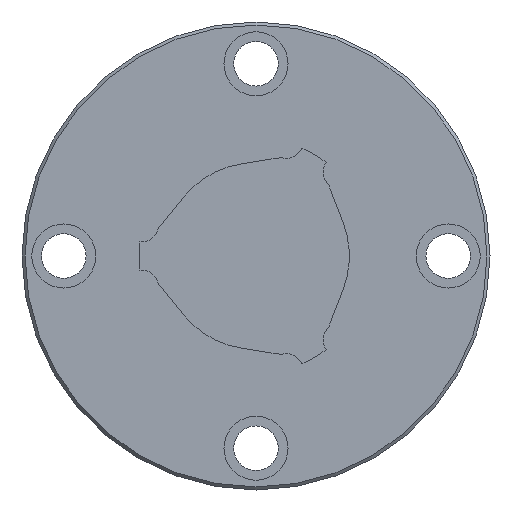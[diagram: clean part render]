
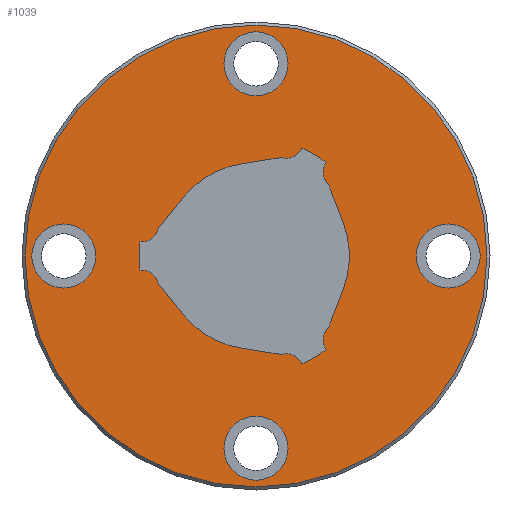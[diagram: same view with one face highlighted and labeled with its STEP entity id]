
A CAD part, left-side view. The second image highlights one B-rep face of the part: STEP entity #1039.
In plain terms, the highlighted planar face has unit normal (-1, 0, 0).
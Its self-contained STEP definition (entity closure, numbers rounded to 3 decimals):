
#45=PLANE('',#1156);
#91=LINE('',#1728,#151);
#92=LINE('',#1737,#152);
#93=LINE('',#1741,#153);
#94=LINE('',#1749,#154);
#95=LINE('',#1753,#155);
#96=LINE('',#1761,#156);
#151=VECTOR('',#1389,1000.);
#152=VECTOR('',#1396,1000.);
#153=VECTOR('',#1399,1000.);
#154=VECTOR('',#1406,1000.);
#155=VECTOR('',#1409,1000.);
#156=VECTOR('',#1416,1000.);
#289=ORIENTED_EDGE('',*,*,#513,.F.);
#290=ORIENTED_EDGE('',*,*,#514,.F.);
#291=ORIENTED_EDGE('',*,*,#515,.T.);
#292=ORIENTED_EDGE('',*,*,#516,.T.);
#293=ORIENTED_EDGE('',*,*,#517,.T.);
#294=ORIENTED_EDGE('',*,*,#518,.T.);
#295=ORIENTED_EDGE('',*,*,#519,.F.);
#296=ORIENTED_EDGE('',*,*,#520,.T.);
#297=ORIENTED_EDGE('',*,*,#521,.F.);
#298=ORIENTED_EDGE('',*,*,#522,.T.);
#299=ORIENTED_EDGE('',*,*,#523,.T.);
#300=ORIENTED_EDGE('',*,*,#524,.T.);
#301=ORIENTED_EDGE('',*,*,#525,.F.);
#302=ORIENTED_EDGE('',*,*,#526,.T.);
#303=ORIENTED_EDGE('',*,*,#527,.F.);
#304=ORIENTED_EDGE('',*,*,#528,.T.);
#305=ORIENTED_EDGE('',*,*,#529,.T.);
#306=ORIENTED_EDGE('',*,*,#530,.T.);
#307=ORIENTED_EDGE('',*,*,#531,.F.);
#308=ORIENTED_EDGE('',*,*,#532,.T.);
#309=ORIENTED_EDGE('',*,*,#533,.F.);
#310=ORIENTED_EDGE('',*,*,#534,.T.);
#311=ORIENTED_EDGE('',*,*,#535,.T.);
#513=EDGE_CURVE('',#634,#634,#725,.T.);
#514=EDGE_CURVE('',#635,#635,#726,.F.);
#515=EDGE_CURVE('',#636,#636,#727,.T.);
#516=EDGE_CURVE('',#637,#637,#728,.T.);
#517=EDGE_CURVE('',#638,#638,#729,.T.);
#518=EDGE_CURVE('',#639,#640,#91,.T.);
#519=EDGE_CURVE('',#641,#640,#730,.T.);
#520=EDGE_CURVE('',#641,#642,#731,.T.);
#521=EDGE_CURVE('',#643,#642,#732,.T.);
#522=EDGE_CURVE('',#643,#644,#92,.T.);
#523=EDGE_CURVE('',#644,#645,#733,.T.);
#524=EDGE_CURVE('',#645,#646,#93,.T.);
#525=EDGE_CURVE('',#647,#646,#734,.T.);
#526=EDGE_CURVE('',#647,#648,#735,.T.);
#527=EDGE_CURVE('',#649,#648,#736,.T.);
#528=EDGE_CURVE('',#649,#650,#94,.T.);
#529=EDGE_CURVE('',#650,#651,#737,.T.);
#530=EDGE_CURVE('',#651,#652,#95,.T.);
#531=EDGE_CURVE('',#653,#652,#738,.T.);
#532=EDGE_CURVE('',#653,#654,#739,.T.);
#533=EDGE_CURVE('',#655,#654,#740,.T.);
#534=EDGE_CURVE('',#655,#656,#96,.T.);
#535=EDGE_CURVE('',#656,#639,#741,.T.);
#634=VERTEX_POINT('',#1719);
#635=VERTEX_POINT('',#1721);
#636=VERTEX_POINT('',#1723);
#637=VERTEX_POINT('',#1725);
#638=VERTEX_POINT('',#1727);
#639=VERTEX_POINT('',#1729);
#640=VERTEX_POINT('',#1730);
#641=VERTEX_POINT('',#1732);
#642=VERTEX_POINT('',#1734);
#643=VERTEX_POINT('',#1736);
#644=VERTEX_POINT('',#1738);
#645=VERTEX_POINT('',#1740);
#646=VERTEX_POINT('',#1742);
#647=VERTEX_POINT('',#1744);
#648=VERTEX_POINT('',#1746);
#649=VERTEX_POINT('',#1748);
#650=VERTEX_POINT('',#1750);
#651=VERTEX_POINT('',#1752);
#652=VERTEX_POINT('',#1754);
#653=VERTEX_POINT('',#1756);
#654=VERTEX_POINT('',#1758);
#655=VERTEX_POINT('',#1760);
#656=VERTEX_POINT('',#1762);
#725=CIRCLE('',#1157,82.9);
#726=CIRCLE('',#1158,11.5);
#727=CIRCLE('',#1159,11.5);
#728=CIRCLE('',#1160,11.5);
#729=CIRCLE('',#1161,11.5);
#730=CIRCLE('',#1162,6.19);
#731=CIRCLE('',#1163,42.);
#732=CIRCLE('',#1164,6.19);
#733=CIRCLE('',#1165,33.5);
#734=CIRCLE('',#1166,6.19);
#735=CIRCLE('',#1167,42.);
#736=CIRCLE('',#1168,6.19);
#737=CIRCLE('',#1169,33.5);
#738=CIRCLE('',#1170,6.19);
#739=CIRCLE('',#1171,42.);
#740=CIRCLE('',#1172,6.19);
#741=CIRCLE('',#1173,33.5);
#797=EDGE_LOOP('',(#289));
#798=EDGE_LOOP('',(#290));
#799=EDGE_LOOP('',(#291));
#800=EDGE_LOOP('',(#292));
#801=EDGE_LOOP('',(#293));
#802=EDGE_LOOP('',(#294,#295,#296,#297,#298,#299,#300,#301,#302,#303,#304,
#305,#306,#307,#308,#309,#310,#311));
#899=FACE_BOUND('',#797,.T.);
#900=FACE_BOUND('',#798,.T.);
#901=FACE_BOUND('',#799,.T.);
#902=FACE_BOUND('',#800,.T.);
#903=FACE_BOUND('',#801,.T.);
#904=FACE_BOUND('',#802,.T.);
#1039=ADVANCED_FACE('',(#899,#900,#901,#902,#903,#904),#45,.F.);
#1156=AXIS2_PLACEMENT_3D('',#1717,#1377,#1378);
#1157=AXIS2_PLACEMENT_3D('',#1718,#1379,#1380);
#1158=AXIS2_PLACEMENT_3D('',#1720,#1381,#1382);
#1159=AXIS2_PLACEMENT_3D('',#1722,#1383,#1384);
#1160=AXIS2_PLACEMENT_3D('',#1724,#1385,#1386);
#1161=AXIS2_PLACEMENT_3D('',#1726,#1387,#1388);
#1162=AXIS2_PLACEMENT_3D('',#1731,#1390,#1391);
#1163=AXIS2_PLACEMENT_3D('',#1733,#1392,#1393);
#1164=AXIS2_PLACEMENT_3D('',#1735,#1394,#1395);
#1165=AXIS2_PLACEMENT_3D('',#1739,#1397,#1398);
#1166=AXIS2_PLACEMENT_3D('',#1743,#1400,#1401);
#1167=AXIS2_PLACEMENT_3D('',#1745,#1402,#1403);
#1168=AXIS2_PLACEMENT_3D('',#1747,#1404,#1405);
#1169=AXIS2_PLACEMENT_3D('',#1751,#1407,#1408);
#1170=AXIS2_PLACEMENT_3D('',#1755,#1410,#1411);
#1171=AXIS2_PLACEMENT_3D('',#1757,#1412,#1413);
#1172=AXIS2_PLACEMENT_3D('',#1759,#1414,#1415);
#1173=AXIS2_PLACEMENT_3D('',#1763,#1417,#1418);
#1377=DIRECTION('',(1.,0.,0.));
#1378=DIRECTION('',(0.,0.,-1.));
#1379=DIRECTION('',(1.,0.,0.));
#1380=DIRECTION('',(0.,0.,-1.));
#1381=DIRECTION('',(1.,0.,0.));
#1382=DIRECTION('',(0.,0.,-1.));
#1383=DIRECTION('',(1.,0.,0.));
#1384=DIRECTION('',(0.,0.,-1.));
#1385=DIRECTION('',(1.,0.,0.));
#1386=DIRECTION('',(0.,0.,-1.));
#1387=DIRECTION('',(1.,0.,0.));
#1388=DIRECTION('',(0.,0.,-1.));
#1389=DIRECTION('',(0.,-0.988,0.156));
#1390=DIRECTION('',(1.,0.,0.));
#1391=DIRECTION('',(0.,0.,-1.));
#1392=DIRECTION('',(1.,0.,0.));
#1393=DIRECTION('',(0.,0.,-1.));
#1394=DIRECTION('',(1.,0.,0.));
#1395=DIRECTION('',(0.,0.,-1.));
#1396=DIRECTION('',(0.,-0.358,-0.934));
#1397=DIRECTION('',(1.,0.,0.));
#1398=DIRECTION('',(0.,0.,-1.));
#1399=DIRECTION('',(0.,0.358,-0.934));
#1400=DIRECTION('',(1.,0.,0.));
#1401=DIRECTION('',(0.,0.,-1.));
#1402=DIRECTION('',(1.,0.,0.));
#1403=DIRECTION('',(0.,0.,-1.));
#1404=DIRECTION('',(1.,0.,0.));
#1405=DIRECTION('',(0.,0.,-1.));
#1406=DIRECTION('',(0.,0.988,0.156));
#1407=DIRECTION('',(1.,0.,0.));
#1408=DIRECTION('',(0.,0.,-1.));
#1409=DIRECTION('',(0.,0.629,0.777));
#1410=DIRECTION('',(1.,0.,0.));
#1411=DIRECTION('',(0.,0.,-1.));
#1412=DIRECTION('',(1.,0.,0.));
#1413=DIRECTION('',(0.,0.,-1.));
#1414=DIRECTION('',(1.,0.,0.));
#1415=DIRECTION('',(0.,0.,-1.));
#1416=DIRECTION('',(0.,-0.629,0.777));
#1417=DIRECTION('',(1.,0.,0.));
#1418=DIRECTION('',(0.,0.,-1.));
#1717=CARTESIAN_POINT('',(0.,0.,0.));
#1718=CARTESIAN_POINT('',(0.,0.,0.));
#1719=CARTESIAN_POINT('',(0.,0.,-82.9));
#1720=CARTESIAN_POINT('',(0.,69.,0.));
#1721=CARTESIAN_POINT('',(0.,69.,-11.5));
#1722=CARTESIAN_POINT('',(0.,0.,69.));
#1723=CARTESIAN_POINT('',(0.,0.,57.5));
#1724=CARTESIAN_POINT('',(0.,-69.,0.));
#1725=CARTESIAN_POINT('',(0.,-69.,-11.5));
#1726=CARTESIAN_POINT('',(0.,0.,-69.));
#1727=CARTESIAN_POINT('',(0.,0.,-80.5));
#1728=CARTESIAN_POINT('',(0.,5.241,33.088));
#1729=CARTESIAN_POINT('',(0.,5.241,33.088));
#1730=CARTESIAN_POINT('',(0.,-9.035,35.349));
#1731=CARTESIAN_POINT('',(0.,-10.881,41.257));
#1732=CARTESIAN_POINT('',(0.,-16.486,38.629));
#1733=CARTESIAN_POINT('',(0.,0.,0.));
#1734=CARTESIAN_POINT('',(0.,-25.211,33.592));
#1735=CARTESIAN_POINT('',(0.,-30.289,30.052));
#1736=CARTESIAN_POINT('',(0.,-26.095,25.499));
#1737=CARTESIAN_POINT('',(0.,-26.095,25.499));
#1738=CARTESIAN_POINT('',(0.,-31.275,12.005));
#1739=CARTESIAN_POINT('',(0.,0.,0.));
#1740=CARTESIAN_POINT('',(0.,-31.275,-12.005));
#1741=CARTESIAN_POINT('',(0.,-31.275,-12.005));
#1742=CARTESIAN_POINT('',(0.,-26.095,-25.499));
#1743=CARTESIAN_POINT('',(0.,-30.289,-30.052));
#1744=CARTESIAN_POINT('',(0.,-25.211,-33.592));
#1745=CARTESIAN_POINT('',(0.,0.,0.));
#1746=CARTESIAN_POINT('',(0.,-16.486,-38.629));
#1747=CARTESIAN_POINT('',(0.,-10.881,-41.257));
#1748=CARTESIAN_POINT('',(0.,-9.035,-35.349));
#1749=CARTESIAN_POINT('',(0.,-9.035,-35.349));
#1750=CARTESIAN_POINT('',(0.,5.241,-33.088));
#1751=CARTESIAN_POINT('',(0.,0.,0.));
#1752=CARTESIAN_POINT('',(0.,26.034,-21.082));
#1753=CARTESIAN_POINT('',(0.,26.034,-21.082));
#1754=CARTESIAN_POINT('',(0.,35.131,-9.849));
#1755=CARTESIAN_POINT('',(0.,41.17,-11.205));
#1756=CARTESIAN_POINT('',(0.,41.697,-5.037));
#1757=CARTESIAN_POINT('',(0.,0.,0.));
#1758=CARTESIAN_POINT('',(0.,41.697,5.037));
#1759=CARTESIAN_POINT('',(0.,41.17,11.205));
#1760=CARTESIAN_POINT('',(0.,35.131,9.849));
#1761=CARTESIAN_POINT('',(0.,35.131,9.849));
#1762=CARTESIAN_POINT('',(0.,26.034,21.082));
#1763=CARTESIAN_POINT('',(0.,0.,0.));
